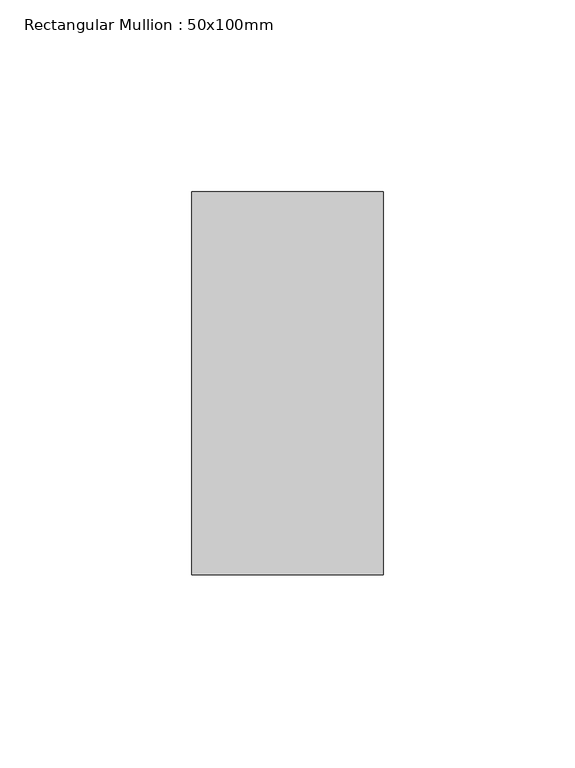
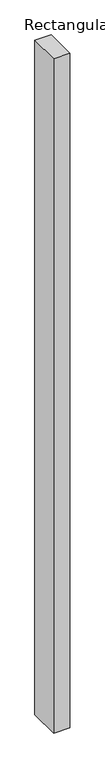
"""IFC4 building model written with IfcOpenShell, lengths in millimetres: member geometry, Rectangular Mullion : 50x100mm."""

from ifc_helpers import new_model, si_unit, frame, origin, place, context, project, spatial, polyline, outline, extrude, source, transform, mapped, element, save


def rectangular_mullion_50x100mm_58fb9ff4(model_context):
    return source(origin(), model_context, "Body", "SweptSolid", [
        extrude(outline(polyline([(0.0, 50.0), (0.0, -50.0), (-50.0, -50.0), (-50.0, 50.0), (0.0, 50.0)])), frame((0.0, 0.0, -2200.0), z_axis=(0.0, 0.0, 1.0), x_axis=(1.0, 0.0, 0.0)), (0.0, 0.0, 1.0), 2200.0),
    ])


if __name__ == "__main__":
    model = new_model("IFC4")
    model_context = context("Model", 3, world=origin())
    ifc_project = project(units=[si_unit("LENGTHUNIT", "METRE", prefix="MILLI")], contexts=[model_context])
    site = spatial("IfcSite", under=ifc_project)
    building = spatial("IfcBuilding", under=site)
    placement = place(None, origin())
    rectangular_mullion_50x100mm_shape = rectangular_mullion_50x100mm_58fb9ff4(model_context)
    element("IfcMember", 1, ObjectType="Rectangular Mullion : 50x100mm", at=placement, inside=building, context=model_context, shape_type="MappedRepresentation", body=[
        mapped(rectangular_mullion_50x100mm_shape, transform((0.0, 0.0, 0.0), x_axis=(1.0, 0.0, 0.0), y_axis=(0.0, 1.0, 0.0), z_axis=(0.0, 0.0, 1.0))),
    ])
    save(model, "model.ifc")
